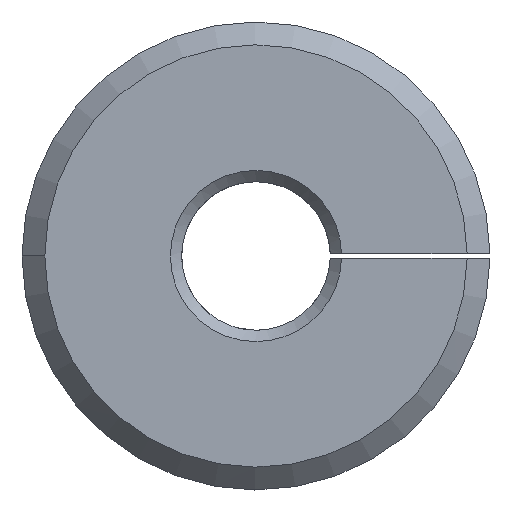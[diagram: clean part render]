
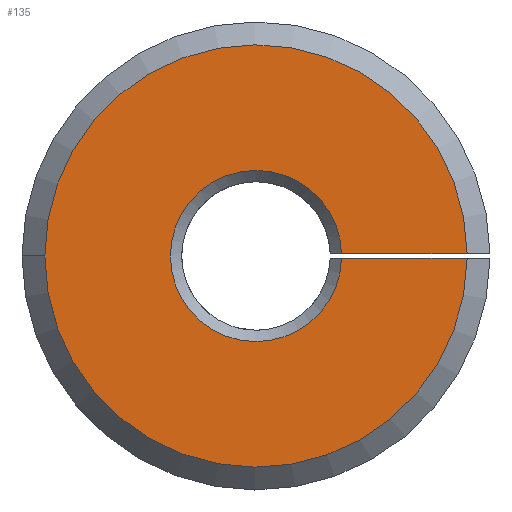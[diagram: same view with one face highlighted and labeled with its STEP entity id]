
A CAD part, front view. The second image highlights one B-rep face of the part: STEP entity #135.
In plain terms, the highlighted planar face has unit normal (0, -1, 0).
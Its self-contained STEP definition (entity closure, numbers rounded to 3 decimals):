
#14 = LINE ( 'NONE', #810, #1241 ) ;
#15 = CARTESIAN_POINT ( 'NONE',  ( -9.25, 0., 0. ) ) ;
#29 = CARTESIAN_POINT ( 'NONE',  ( 0., 0., 0. ) ) ;
#118 = DIRECTION ( 'NONE',  ( 0., 1., 0. ) ) ;
#135 = ADVANCED_FACE ( 'NONE', ( #1331 ), #895, .T. ) ;
#145 = VECTOR ( 'NONE', #571, 1000. ) ;
#151 = ORIENTED_EDGE ( 'NONE', *, *, #493, .T. ) ;
#179 = CIRCLE ( 'NONE', #896, 3.75 ) ;
#219 = CIRCLE ( 'NONE', #1107, 9.25 ) ;
#274 = CARTESIAN_POINT ( 'NONE',  ( 3.749, 0., -0.1 ) ) ;
#318 = EDGE_CURVE ( 'NONE', #435, #373, #219, .T. ) ;
#346 = EDGE_CURVE ( 'NONE', #1272, #550, #179, .T. ) ;
#373 = VERTEX_POINT ( 'NONE', #1299 ) ;
#435 = VERTEX_POINT ( 'NONE', #15 ) ;
#493 = EDGE_CURVE ( 'NONE', #373, #1272, #1098, .T. ) ;
#524 = DIRECTION ( 'NONE',  ( -1., 0., 0. ) ) ;
#533 = ORIENTED_EDGE ( 'NONE', *, *, #964, .T. ) ;
#541 = AXIS2_PLACEMENT_3D ( 'NONE', #664, #715, #1338 ) ;
#550 = VERTEX_POINT ( 'NONE', #1221 ) ;
#552 = DIRECTION ( 'NONE',  ( 1., 0., 0. ) ) ;
#571 = DIRECTION ( 'NONE',  ( -1., 0., 0. ) ) ;
#595 = DIRECTION ( 'NONE',  ( 1., 0., 0. ) ) ;
#631 = ORIENTED_EDGE ( 'NONE', *, *, #679, .T. ) ;
#664 = CARTESIAN_POINT ( 'NONE',  ( 0., 0., 0. ) ) ;
#679 = EDGE_CURVE ( 'NONE', #960, #435, #1257, .T. ) ;
#709 = CARTESIAN_POINT ( 'NONE',  ( 9.249, 0., 0.1 ) ) ;
#715 = DIRECTION ( 'NONE',  ( 0., -1., 0. ) ) ;
#810 = CARTESIAN_POINT ( 'NONE',  ( 10.297, 0., 0.1 ) ) ;
#834 = CARTESIAN_POINT ( 'NONE',  ( 0., 0., 0. ) ) ;
#895 = PLANE ( 'NONE',  #541 ) ;
#896 = AXIS2_PLACEMENT_3D ( 'NONE', #29, #118, #552 ) ;
#960 = VERTEX_POINT ( 'NONE', #709 ) ;
#964 = EDGE_CURVE ( 'NONE', #550, #960, #14, .T. ) ;
#1061 = DIRECTION ( 'NONE',  ( 0., -1., 0. ) ) ;
#1083 = AXIS2_PLACEMENT_3D ( 'NONE', #1250, #1242, #1355 ) ;
#1098 = LINE ( 'NONE', #1307, #145 ) ;
#1107 = AXIS2_PLACEMENT_3D ( 'NONE', #834, #1061, #524 ) ;
#1125 = ORIENTED_EDGE ( 'NONE', *, *, #318, .T. ) ;
#1146 = ORIENTED_EDGE ( 'NONE', *, *, #346, .T. ) ;
#1221 = CARTESIAN_POINT ( 'NONE',  ( 3.749, 0., 0.1 ) ) ;
#1241 = VECTOR ( 'NONE', #595, 1000. ) ;
#1242 = DIRECTION ( 'NONE',  ( 0., -1., 0. ) ) ;
#1246 = EDGE_LOOP ( 'NONE', ( #533, #631, #1125, #151, #1146 ) ) ;
#1250 = CARTESIAN_POINT ( 'NONE',  ( 0., 0., 0. ) ) ;
#1257 = CIRCLE ( 'NONE', #1083, 9.25 ) ;
#1272 = VERTEX_POINT ( 'NONE', #274 ) ;
#1299 = CARTESIAN_POINT ( 'NONE',  ( 9.249, 0., -0.1 ) ) ;
#1307 = CARTESIAN_POINT ( 'NONE',  ( 2., 0., -0.1 ) ) ;
#1331 = FACE_OUTER_BOUND ( 'NONE', #1246, .T. ) ;
#1338 = DIRECTION ( 'NONE',  ( 1., 0., 0. ) ) ;
#1355 = DIRECTION ( 'NONE',  ( -1., 0., 0. ) ) ;
